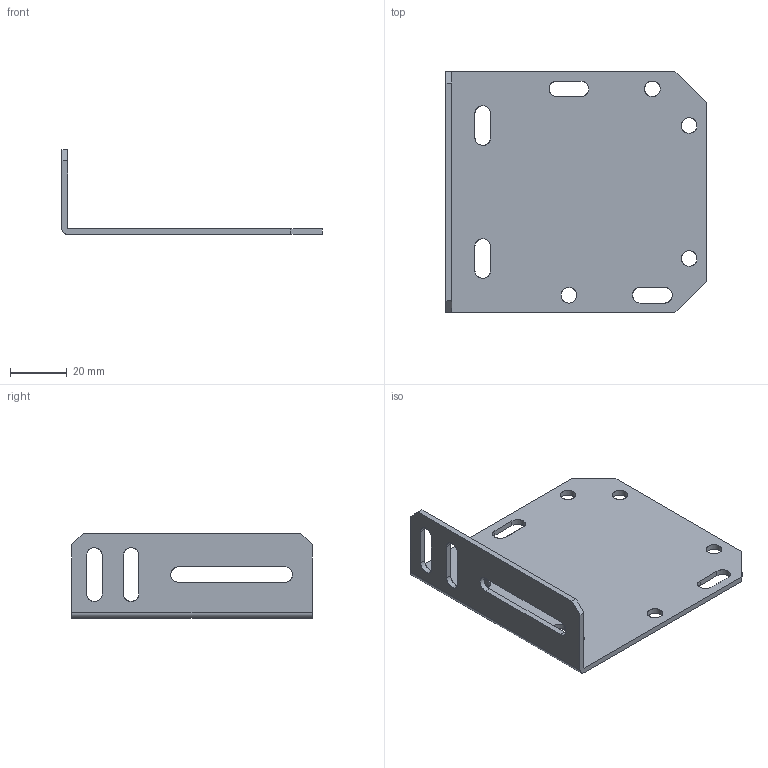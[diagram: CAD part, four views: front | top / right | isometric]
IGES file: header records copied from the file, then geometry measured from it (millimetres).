
Global section: file name: E:\lem\3DCAD_BT96_1.igs; native system: NX V8.5; preprocessor: SIEMENS PLM Software NX 8.5; date: 20170412.160221; units: millimetre
Bounding box: 92 x 85 x 30 mm (x, y, z)
Surface area: 19995 mm2 (no closed solid volume)
Topology: 0 solids, 0 shells, 46 faces, 457 edges, 496 vertices
Faces by surface type: bspline 46
